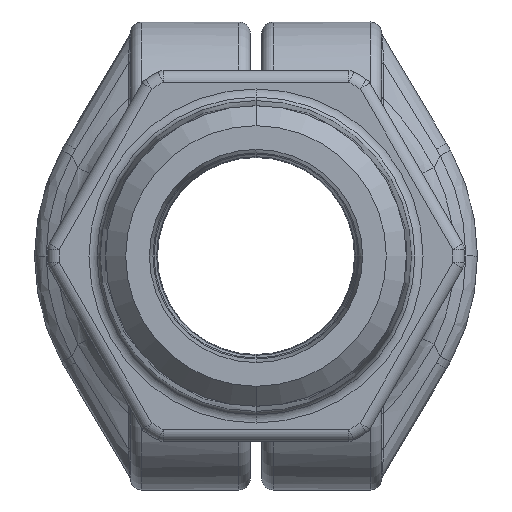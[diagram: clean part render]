
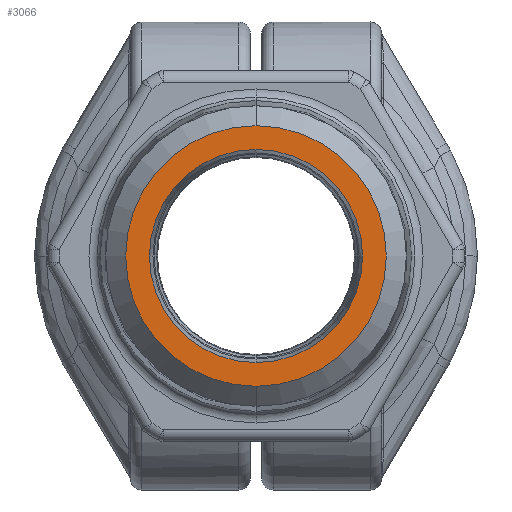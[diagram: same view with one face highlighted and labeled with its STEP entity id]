
A CAD part, left-side view. The second image highlights one B-rep face of the part: STEP entity #3066.
In plain terms, the highlighted planar face has unit normal (-1, 0, 0).
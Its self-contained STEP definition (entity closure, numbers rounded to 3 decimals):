
#1140=CARTESIAN_POINT('',(-61.094,0.,0.));
#1141=DIRECTION('',(1.,0.,0.));
#1142=DIRECTION('',(0.,0.,-1.));
#1143=AXIS2_PLACEMENT_3D('',#1140,#1141,#1142);
#1148=CARTESIAN_POINT('',(-61.094,0.,0.));
#1149=DIRECTION('',(1.,0.,0.));
#1150=DIRECTION('',(0.,0.,1.));
#1151=AXIS2_PLACEMENT_3D('',#1148,#1149,#1150);
#1156=CARTESIAN_POINT('',(-61.094,0.,0.));
#1157=DIRECTION('',(-1.,0.,0.));
#1158=DIRECTION('',(0.,0.,-1.));
#1159=AXIS2_PLACEMENT_3D('',#1156,#1157,#1158);
#1164=CARTESIAN_POINT('',(-61.094,0.,0.));
#1165=DIRECTION('',(-1.,0.,0.));
#1166=DIRECTION('',(0.,0.,1.));
#1167=AXIS2_PLACEMENT_3D('',#1164,#1165,#1166);
#1931=CARTESIAN_POINT('',(-61.094,0.,-11.417));
#1932=CARTESIAN_POINT('',(-61.094,0.,11.417));
#1933=VERTEX_POINT('',#1931);
#1934=VERTEX_POINT('',#1932);
#1935=CARTESIAN_POINT('',(-61.094,0.,-9.337));
#1936=CARTESIAN_POINT('',(-61.094,0.,9.337));
#1937=VERTEX_POINT('',#1935);
#1938=VERTEX_POINT('',#1936);
#3050=CARTESIAN_POINT('',(-61.094,11.417,0.));
#3051=DIRECTION('',(1.,0.,0.));
#3052=DIRECTION('',(0.,0.,-1.));
#3053=AXIS2_PLACEMENT_3D('',#3050,#3051,#3052);
#3054=PLANE('',#3053);
#3055=ORIENTED_EDGE('',*,*,#3040,.T.);
#3057=ORIENTED_EDGE('',*,*,#3056,.T.);
#3058=EDGE_LOOP('',(#3055,#3057));
#3059=FACE_OUTER_BOUND('',#3058,.F.);
#3061=ORIENTED_EDGE('',*,*,#3060,.T.);
#3063=ORIENTED_EDGE('',*,*,#3062,.T.);
#3064=EDGE_LOOP('',(#3061,#3063));
#3065=FACE_BOUND('',#3064,.F.);
#1144=CIRCLE('',#1143,11.417);
#1152=CIRCLE('',#1151,11.417);
#1160=CIRCLE('',#1159,9.337);
#1168=CIRCLE('',#1167,9.337);
#3040=EDGE_CURVE('',#1933,#1934,#1144,.T.);
#3056=EDGE_CURVE('',#1934,#1933,#1152,.T.);
#3060=EDGE_CURVE('',#1937,#1938,#1160,.T.);
#3062=EDGE_CURVE('',#1938,#1937,#1168,.T.);
#3066=ADVANCED_FACE('',(#3059,#3065),#3054,.F.);
